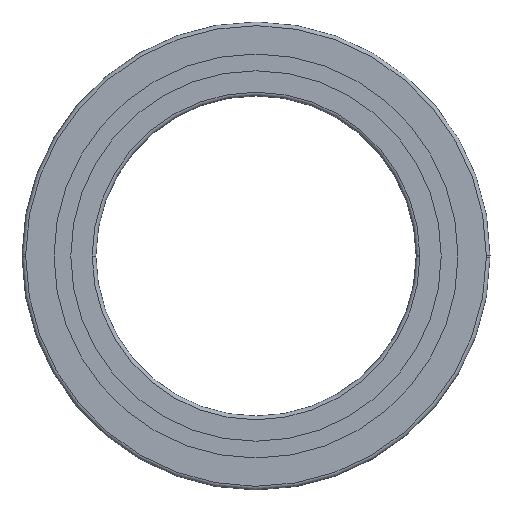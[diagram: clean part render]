
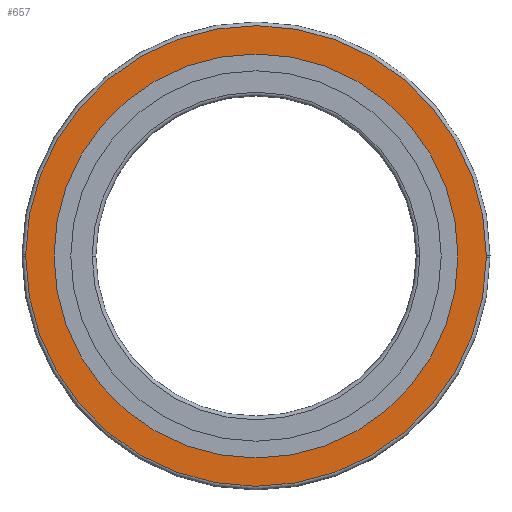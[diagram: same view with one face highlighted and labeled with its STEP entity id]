
A CAD part, front view. The second image highlights one B-rep face of the part: STEP entity #657.
In plain terms, the highlighted planar face has unit normal (0, -1, 0).
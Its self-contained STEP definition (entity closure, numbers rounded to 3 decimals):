
#339=EDGE_CURVE('',#537,#375,#878,.T.);
#373=VERTEX_POINT('',#917);
#375=VERTEX_POINT('',#919);
#447=EDGE_CURVE('',#519,#529,#1000,.T.);
#519=VERTEX_POINT('',#1082);
#529=VERTEX_POINT('',#1093);
#537=VERTEX_POINT('',#1102);
#565=EDGE_CURVE('',#529,#519,#1132,.T.);
#657=ADVANCED_FACE('',(#1233,#1234),#1235,.F.);
#705=EDGE_CURVE('',#771,#373,#1289,.T.);
#771=VERTEX_POINT('',#1367);
#773=EDGE_CURVE('',#373,#537,#1369,.T.);
#811=EDGE_CURVE('',#375,#771,#1411,.T.);
#878=CIRCLE('',#1492,93.5);
#917=CARTESIAN_POINT('',(-93.5,0.0,0.));
#919=CARTESIAN_POINT('',(93.5,0.0,0.0));
#1000=CIRCLE('',#1644,82.0);
#1082=CARTESIAN_POINT('',(82.0,0.0,0.));
#1093=CARTESIAN_POINT('',(-82.0,0.0,0.0));
#1102=CARTESIAN_POINT('',(93.498,0.0,-0.578));
#1132=CIRCLE('',#1801,82.0);
#1233=FACE_OUTER_BOUND('',#1926,.T.);
#1234=FACE_BOUND('',#1927,.T.);
#1235=PLANE('',#1928);
#1289=CIRCLE('',#1994,93.5);
#1367=CARTESIAN_POINT('',(-93.498,0.0,0.578));
#1369=CIRCLE('',#2091,93.5);
#1411=CIRCLE('',#2143,93.5);
#1492=AXIS2_PLACEMENT_3D('',#2196,#2197,#2198);
#1644=AXIS2_PLACEMENT_3D('',#2351,#2352,#2353);
#1801=AXIS2_PLACEMENT_3D('',#2517,#2518,#2519);
#1926=EDGE_LOOP('',(#2651,#2652,#2653,#2654));
#1927=EDGE_LOOP('',(#2655,#2656));
#1928=AXIS2_PLACEMENT_3D('',#2657,#2658,#2659);
#1994=AXIS2_PLACEMENT_3D('',#2730,#2731,#2732);
#2091=AXIS2_PLACEMENT_3D('',#2862,#2863,#2864);
#2143=AXIS2_PLACEMENT_3D('',#2915,#2916,#2917);
#2196=CARTESIAN_POINT('',(0.0,0.0,0.0));
#2197=DIRECTION('',(0.0,-1.0,0.0));
#2198=DIRECTION('',(-1.0,0.0,0.0));
#2351=CARTESIAN_POINT('',(0.0,0.0,0.0));
#2352=DIRECTION('',(0.0,-1.0,0.0));
#2353=DIRECTION('',(1.0,0.0,0.0));
#2517=CARTESIAN_POINT('',(0.0,0.0,0.0));
#2518=DIRECTION('',(0.0,-1.0,0.0));
#2519=DIRECTION('',(-1.0,0.0,0.0));
#2651=ORIENTED_EDGE('',*,*,#773,.T.);
#2652=ORIENTED_EDGE('',*,*,#339,.T.);
#2653=ORIENTED_EDGE('',*,*,#811,.T.);
#2654=ORIENTED_EDGE('',*,*,#705,.T.);
#2655=ORIENTED_EDGE('',*,*,#565,.F.);
#2656=ORIENTED_EDGE('',*,*,#447,.F.);
#2657=CARTESIAN_POINT('',(0.0,0.0,0.0));
#2658=DIRECTION('',(0.0,1.0,0.0));
#2659=DIRECTION('',(1.0,0.0,-0.0));
#2730=CARTESIAN_POINT('',(0.0,0.0,0.0));
#2731=DIRECTION('',(0.0,-1.0,0.0));
#2732=DIRECTION('',(1.0,0.0,0.0));
#2862=CARTESIAN_POINT('',(0.0,0.0,0.0));
#2863=DIRECTION('',(0.0,-1.0,0.0));
#2864=DIRECTION('',(-1.0,0.0,0.0));
#2915=CARTESIAN_POINT('',(0.0,0.0,0.0));
#2916=DIRECTION('',(0.0,-1.0,0.0));
#2917=DIRECTION('',(1.0,0.0,0.0));
